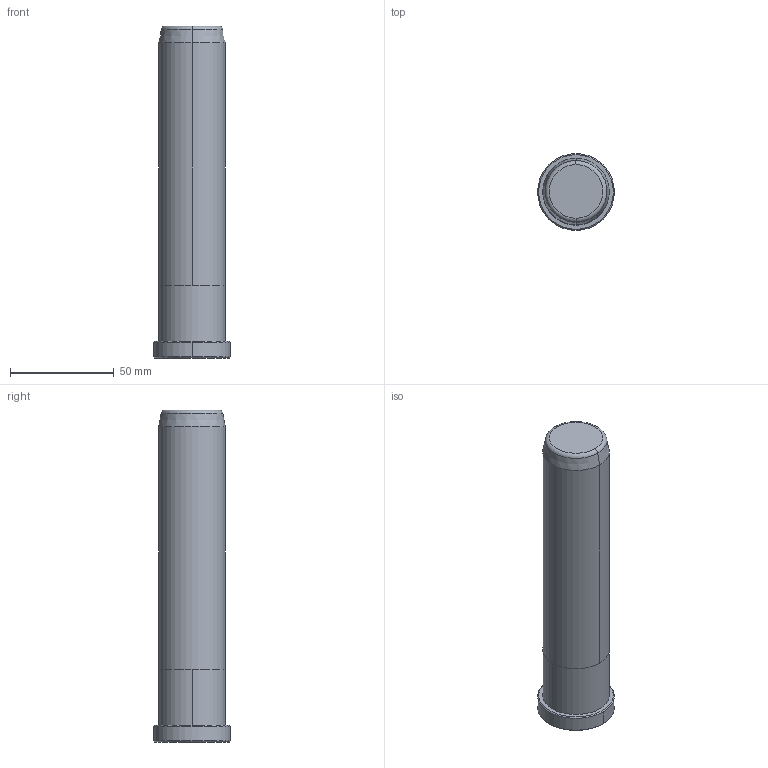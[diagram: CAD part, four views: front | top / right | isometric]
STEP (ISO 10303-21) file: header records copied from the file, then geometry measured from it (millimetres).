
FILE_DESCRIPTION((''),'2;1');
FILE_NAME('B80832160','2018-01-22T',('MANU'),(''),'PRO/ENGINEER BY PARAMETRIC TECHNOLOGY CORPORATION, 2012130','PRO/ENGINEER BY PARAMETRIC TECHNOLOGY CORPORATION, 2012130','');
FILE_SCHEMA(('CONFIG_CONTROL_DESIGN'));
Length unit declared in the file: millimetre
Products named in the file (1): B80832160
Bounding box: 37 x 37 x 160 mm (x, y, z)
Volume: 130244.5 mm3; surface area: 18081.8 mm2
Topology: 1 solids, 1 shells, 18 faces, 34 edges, 20 vertices
Faces by surface type: cone 6, cylinder 6, plane 4, torus 2
Entity records: 494 total; most frequent: DIRECTION 92, CARTESIAN_POINT 72, ORIENTED_EDGE 68, AXIS2_PLACEMENT_3D 40, EDGE_CURVE 34, CIRCLE 22, VERTEX_POINT 20, EDGE_LOOP 20
